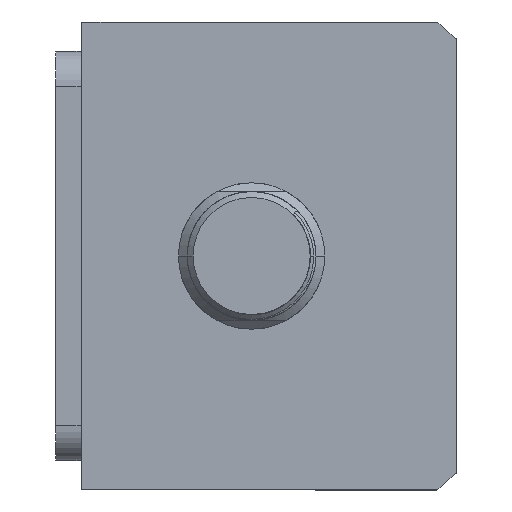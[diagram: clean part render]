
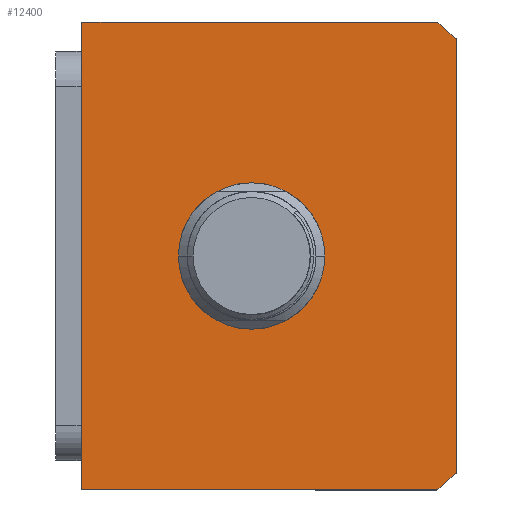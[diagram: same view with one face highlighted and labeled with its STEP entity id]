
A CAD part, front view. The second image highlights one B-rep face of the part: STEP entity #12400.
In plain terms, the highlighted planar face has unit normal (0, -1, 0) as drawn and (0, 0, -1) by its records, which use the part's own axes.
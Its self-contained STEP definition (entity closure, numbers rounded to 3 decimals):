
#196 = DIRECTION ( 'NONE',  ( 0., 0., 1. ) ) ;
#357 = ORIENTED_EDGE ( 'NONE', *, *, #10407, .T. ) ;
#455 = EDGE_LOOP ( 'NONE', ( #6346, #357 ) ) ;
#543 = DIRECTION ( 'NONE',  ( 1., 0., 0. ) ) ;
#612 = ORIENTED_EDGE ( 'NONE', *, *, #12525, .F. ) ;
#1242 = EDGE_CURVE ( 'NONE', #12977, #17032, #10249, .T. ) ;
#1341 = DIRECTION ( 'NONE',  ( 0., -1., 0. ) ) ;
#1373 = VERTEX_POINT ( 'NONE', #8204 ) ;
#1643 = LINE ( 'NONE', #9555, #15770 ) ;
#1686 = EDGE_CURVE ( 'NONE', #2890, #12977, #10030, .T. ) ;
#2010 = EDGE_CURVE ( 'NONE', #3653, #1373, #11525, .T. ) ;
#2256 = EDGE_CURVE ( 'NONE', #7301, #17672, #16661, .T. ) ;
#2495 = EDGE_CURVE ( 'NONE', #17032, #15824, #12172, .T. ) ;
#2605 = DIRECTION ( 'NONE',  ( -1., 0., 0. ) ) ;
#2890 = VERTEX_POINT ( 'NONE', #14977 ) ;
#3653 = VERTEX_POINT ( 'NONE', #13103 ) ;
#3806 = CARTESIAN_POINT ( 'NONE',  ( 0., 0., 0. ) ) ;
#4072 = AXIS2_PLACEMENT_3D ( 'NONE', #16935, #8762, #543 ) ;
#4311 = CARTESIAN_POINT ( 'NONE',  ( 40., 32., 0. ) ) ;
#5100 = VECTOR ( 'NONE', #13030, 1000. ) ;
#5105 = AXIS2_PLACEMENT_3D ( 'NONE', #8406, #196, #9771 ) ;
#5184 = DIRECTION ( 'NONE',  ( 0., 0., 1. ) ) ;
#5673 = CARTESIAN_POINT ( 'NONE',  ( -40., -28.639, 0. ) ) ;
#5959 = EDGE_CURVE ( 'NONE', #17672, #2890, #8754, .T. ) ;
#6184 = VECTOR ( 'NONE', #10638, 1000. ) ;
#6234 = AXIS2_PLACEMENT_3D ( 'NONE', #7608, #17174, #9009 ) ;
#6341 = ORIENTED_EDGE ( 'NONE', *, *, #2495, .F. ) ;
#6346 = ORIENTED_EDGE ( 'NONE', *, *, #2010, .T. ) ;
#6602 = CARTESIAN_POINT ( 'NONE',  ( 0., 3., 0. ) ) ;
#6686 = CARTESIAN_POINT ( 'NONE',  ( -40., 32., 0. ) ) ;
#7301 = VERTEX_POINT ( 'NONE', #5673 ) ;
#7310 = ORIENTED_EDGE ( 'NONE', *, *, #1242, .F. ) ;
#7608 = CARTESIAN_POINT ( 'NONE',  ( 0., 3., 0. ) ) ;
#7988 = DIRECTION ( 'NONE',  ( 1., 0., 0. ) ) ;
#8204 = CARTESIAN_POINT ( 'NONE',  ( -12.5, 3., 0. ) ) ;
#8406 = CARTESIAN_POINT ( 'NONE',  ( 0., 3., 0. ) ) ;
#8728 = EDGE_LOOP ( 'NONE', ( #13437, #612, #6341, #7310, #16381, #10278 ) ) ;
#8754 = LINE ( 'NONE', #11571, #5100 ) ;
#8762 = DIRECTION ( 'NONE',  ( 0., 0., 1. ) ) ;
#8913 = AXIS2_PLACEMENT_3D ( 'NONE', #3806, #5184, #14745 ) ;
#9009 = DIRECTION ( 'NONE',  ( 1., 0., 0. ) ) ;
#9555 = CARTESIAN_POINT ( 'NONE',  ( -40., 32., 0. ) ) ;
#9771 = DIRECTION ( 'NONE',  ( 1., 0., 0. ) ) ;
#10030 = CIRCLE ( 'NONE', #6234, 51. ) ;
#10249 = LINE ( 'NONE', #16035, #6184 ) ;
#10278 = ORIENTED_EDGE ( 'NONE', *, *, #5959, .F. ) ;
#10407 = EDGE_CURVE ( 'NONE', #1373, #3653, #11312, .T. ) ;
#10638 = DIRECTION ( 'NONE',  ( 0., 1., 0. ) ) ;
#11312 = CIRCLE ( 'NONE', #5105, 12.5 ) ;
#11525 = CIRCLE ( 'NONE', #14477, 12.5 ) ;
#11571 = CARTESIAN_POINT ( 'NONE',  ( -40., -32., 0. ) ) ;
#11734 = VECTOR ( 'NONE', #2605, 1000. ) ;
#11882 = CARTESIAN_POINT ( 'NONE',  ( -40., 32., 0. ) ) ;
#12172 = LINE ( 'NONE', #6686, #11734 ) ;
#12400 = ADVANCED_FACE ( 'NONE', ( #17053, #16643 ), #13379, .F. ) ;
#12525 = EDGE_CURVE ( 'NONE', #15824, #7301, #1643, .T. ) ;
#12977 = VERTEX_POINT ( 'NONE', #15808 ) ;
#13030 = DIRECTION ( 'NONE',  ( 1., 0., 0. ) ) ;
#13103 = CARTESIAN_POINT ( 'NONE',  ( 12.5, 3., 0. ) ) ;
#13379 = PLANE ( 'NONE',  #8913 ) ;
#13437 = ORIENTED_EDGE ( 'NONE', *, *, #2256, .F. ) ;
#14024 = CARTESIAN_POINT ( 'NONE',  ( -37.094, -32., 0. ) ) ;
#14477 = AXIS2_PLACEMENT_3D ( 'NONE', #6602, #16163, #7988 ) ;
#14745 = DIRECTION ( 'NONE',  ( 1., 0., 0. ) ) ;
#14977 = CARTESIAN_POINT ( 'NONE',  ( 37.094, -32., 0. ) ) ;
#15770 = VECTOR ( 'NONE', #1341, 1000. ) ;
#15808 = CARTESIAN_POINT ( 'NONE',  ( 40., -28.639, 0. ) ) ;
#15824 = VERTEX_POINT ( 'NONE', #11882 ) ;
#16035 = CARTESIAN_POINT ( 'NONE',  ( 40., 32., 0. ) ) ;
#16163 = DIRECTION ( 'NONE',  ( 0., 0., 1. ) ) ;
#16381 = ORIENTED_EDGE ( 'NONE', *, *, #1686, .F. ) ;
#16643 = FACE_OUTER_BOUND ( 'NONE', #8728, .T. ) ;
#16661 = CIRCLE ( 'NONE', #4072, 51. ) ;
#16935 = CARTESIAN_POINT ( 'NONE',  ( 0., 3., 0. ) ) ;
#17032 = VERTEX_POINT ( 'NONE', #4311 ) ;
#17053 = FACE_BOUND ( 'NONE', #455, .T. ) ;
#17174 = DIRECTION ( 'NONE',  ( 0., 0., 1. ) ) ;
#17672 = VERTEX_POINT ( 'NONE', #14024 ) ;
